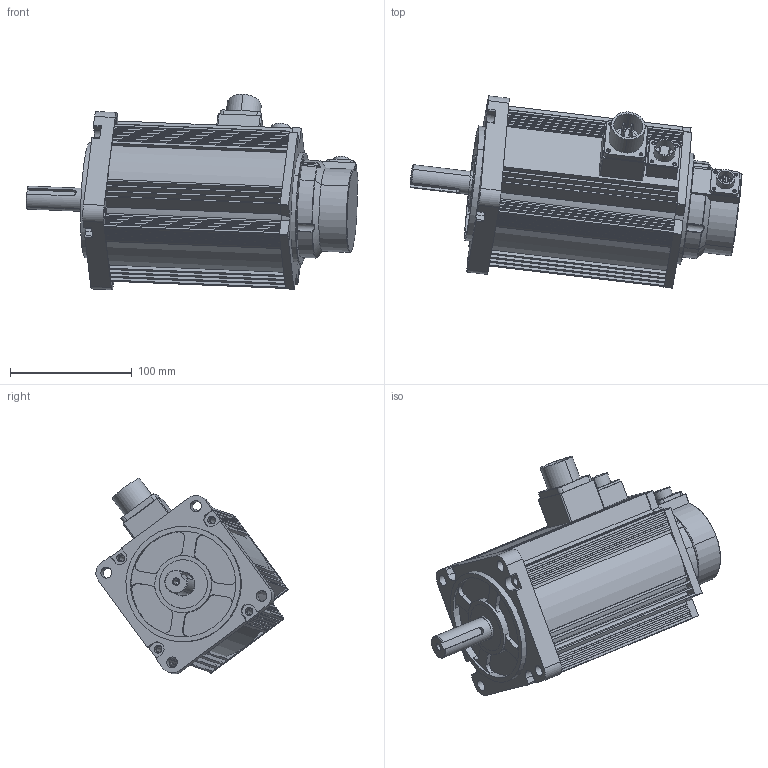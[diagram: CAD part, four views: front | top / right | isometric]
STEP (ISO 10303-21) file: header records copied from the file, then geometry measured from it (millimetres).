
FILE_DESCRIPTION (( 'STEP AP203' ), '1' );
FILE_NAME ('110A-075-Z.STEP', '2024-09-10T11:54:02', ( '' ), ( '' ), 'SwSTEP 2.0', 'SolidWorks 2018', '' );
FILE_SCHEMA (( 'CONFIG_CONTROL_DESIGN' ));
Length unit declared in the file: millimetre
Products named in the file (13): 蚐猾; 惕掅脣芛1; 110A綴欶; 110A4.2N梓饜蛌粣; 惕掅脣釱; 18-10; 錨璃3; 綴傷裔; SC-CMV1-R10P-E; ヶ傷裔; 儂褲 -7.5 -z; 110A-075-Z; 諉盄釱
Assembly tree (12 placements, depth 2):
  110A-075-Z
    ヶ傷裔
    綴傷裔
    諉盄釱
    110A綴欶
    110A4.2N梓饜蛌粣
    惕掅脣芛1
    惕掅脣釱
    錨璃3
    18-10
    SC-CMV1-R10P-E
    蚐猾
    儂褲 -7.5 -z
Bounding box: 272.92 x 158.03 x 160.75 mm (x, y, z)
Volume: 694434.9 mm3; surface area: 318280.9 mm2
Topology: 12 solids, 12 shells, 842 faces, 2202 edges, 1427 vertices
Faces by surface type: cylinder 381, plane 370, cone 48, torus 22, sphere 16, bspline 5
Entity records: 28399 total; most frequent: CARTESIAN_POINT 5620, DIRECTION 4653, ORIENTED_EDGE 4340, EDGE_CURVE 2170, AXIS2_PLACEMENT_3D 1700, VERTEX_POINT 1419, LINE 1253, VECTOR 1253
